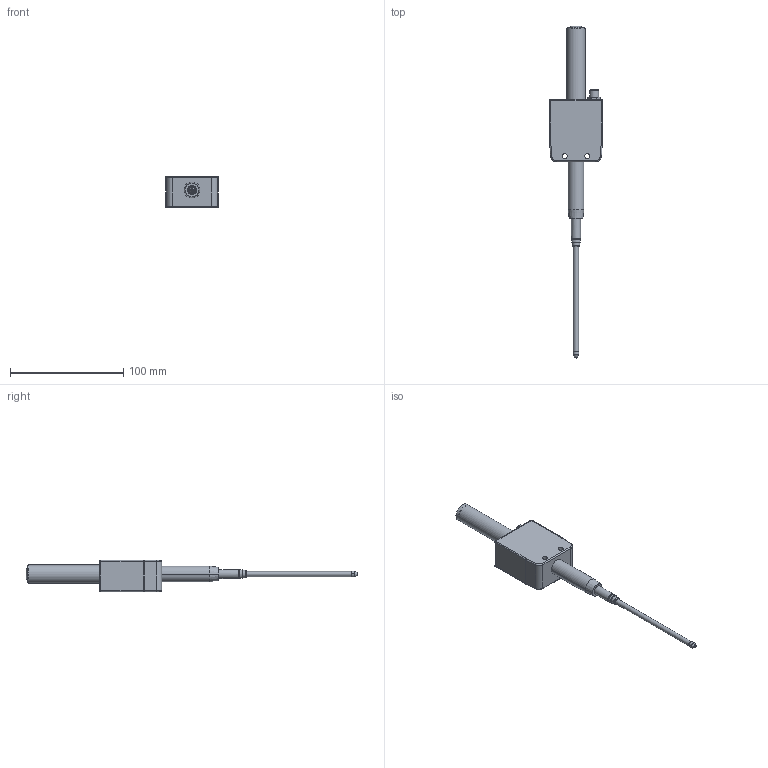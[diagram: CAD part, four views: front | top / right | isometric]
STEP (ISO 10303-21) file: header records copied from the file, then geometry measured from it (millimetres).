
FILE_DESCRIPTION(/* description */ (''),/* implementation_level */ '2;1');
FILE_NAME(/* name */ '50 百分绝对值测头.stp',/* time_stamp */ '2026-01-21T10:59:39+08:00',/* author */ (''),/* organization */ (''),/* preprocessor_version */ 'ST-DEVELOPER v16.7',/* originating_system */ 'SIEMENS PLM Software NX 1919',/* authorisation */ '');
FILE_SCHEMA (('AUTOMOTIVE_DESIGN { 1 0 10303 214 3 1 1 1 }'));
Length unit declared in the file: millimetre
Products named in the file (1): jzBA7C52436zq7
Bounding box: 46.5 x 293.58 x 27.5 mm (x, y, z)
Volume: 91581.1 mm3; surface area: 24902 mm2
Topology: 1 solids, 8 shells, 134 faces, 299 edges, 190 vertices
Faces by surface type: cylinder 58, plane 45, cone 11, torus 10, sphere 8, bspline 2
Full cylindrical faces by diameter (mm): 2 x1, 3 x1, 3.7 x1, 4.5 x5, 5 x1, 5.5 x1, 6.7 x1, 7 x1, 7.9 x1, 8 x2, 13.5 x1, 14 x3, 15 x1, 16 x1
Entity records: 4371 total; most frequent: CARTESIAN_POINT 1072, DIRECTION 652, ORIENTED_EDGE 506, AXIS2_PLACEMENT_3D 277, EDGE_CURVE 253, EDGE_LOOP 187, VERTEX_POINT 177, CIRCLE 145
